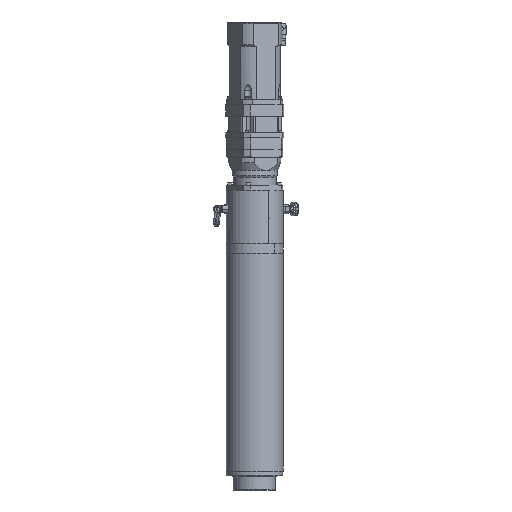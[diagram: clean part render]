
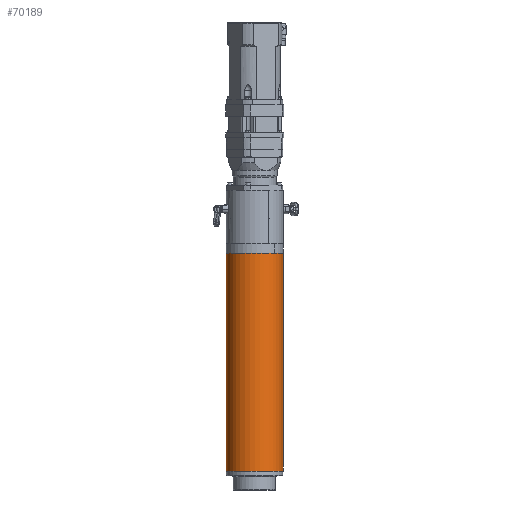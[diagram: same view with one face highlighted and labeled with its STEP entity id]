
A CAD part, front view. The second image highlights one B-rep face of the part: STEP entity #70189.
In plain terms, the highlighted cylindrical face has radius 120 mm (diameter 240 mm), a partial arc.
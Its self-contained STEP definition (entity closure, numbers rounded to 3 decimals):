
#5825 = CARTESIAN_POINT ( 'NONE',  ( -120., 0., -172.5 ) ) ;
#6128 = ORIENTED_EDGE ( 'NONE', *, *, #28770, .T. ) ;
#9587 = CARTESIAN_POINT ( 'NONE',  ( 0., 0., 764. ) ) ;
#11962 = VERTEX_POINT ( 'NONE', #33325 ) ;
#12359 = VERTEX_POINT ( 'NONE', #66318 ) ;
#12760 = CARTESIAN_POINT ( 'NONE',  ( 120., 0., -152.5 ) ) ;
#15948 = DIRECTION ( 'NONE',  ( 0., 0., -1. ) ) ;
#19339 = CARTESIAN_POINT ( 'NONE',  ( -120., 0., -152.5 ) ) ;
#24879 = VERTEX_POINT ( 'NONE', #19339 ) ;
#27232 = EDGE_LOOP ( 'NONE', ( #50973, #71360, #6128, #42494 ) ) ;
#28770 = EDGE_CURVE ( 'NONE', #12359, #24879, #51484, .T. ) ;
#28857 = DIRECTION ( 'NONE',  ( 0., 0., -1. ) ) ;
#28951 = EDGE_CURVE ( 'NONE', #11962, #12359, #33733, .T. ) ;
#32527 = DIRECTION ( 'NONE',  ( -1., 0., 0. ) ) ;
#33325 = CARTESIAN_POINT ( 'NONE',  ( 120., 0., 764. ) ) ;
#33733 = CIRCLE ( 'NONE', #43363, 120. ) ;
#36013 = CARTESIAN_POINT ( 'NONE',  ( 120., 0., -172.5 ) ) ;
#36045 = VECTOR ( 'NONE', #28857, 1000. ) ;
#36357 = VECTOR ( 'NONE', #59101, 1000. ) ;
#42494 = ORIENTED_EDGE ( 'NONE', *, *, #69232, .F. ) ;
#43363 = AXIS2_PLACEMENT_3D ( 'NONE', #9587, #45013, #43888 ) ;
#43888 = DIRECTION ( 'NONE',  ( -1., 0., 0. ) ) ;
#44665 = AXIS2_PLACEMENT_3D ( 'NONE', #67493, #56200, #67847 ) ;
#45013 = DIRECTION ( 'NONE',  ( 0., 0., -1. ) ) ;
#48072 = LINE ( 'NONE', #36013, #36357 ) ;
#50973 = ORIENTED_EDGE ( 'NONE', *, *, #55893, .F. ) ;
#51484 = LINE ( 'NONE', #5825, #36045 ) ;
#55195 = CARTESIAN_POINT ( 'NONE',  ( 0., 0., -152.5 ) ) ;
#55893 = EDGE_CURVE ( 'NONE', #11962, #72053, #48072, .T. ) ;
#56200 = DIRECTION ( 'NONE',  ( 0., 0., -1. ) ) ;
#59101 = DIRECTION ( 'NONE',  ( 0., 0., -1. ) ) ;
#59720 = FACE_OUTER_BOUND ( 'NONE', #27232, .T. ) ;
#61360 = CIRCLE ( 'NONE', #73307, 120. ) ;
#66318 = CARTESIAN_POINT ( 'NONE',  ( -120., 0., 764. ) ) ;
#67493 = CARTESIAN_POINT ( 'NONE',  ( 0., 0., -172.5 ) ) ;
#67847 = DIRECTION ( 'NONE',  ( -1., 0., 0. ) ) ;
#69232 = EDGE_CURVE ( 'NONE', #72053, #24879, #61360, .T. ) ;
#70189 = ADVANCED_FACE ( 'NONE', ( #59720 ), #72758, .T. ) ;
#71360 = ORIENTED_EDGE ( 'NONE', *, *, #28951, .T. ) ;
#72053 = VERTEX_POINT ( 'NONE', #12760 ) ;
#72758 = CYLINDRICAL_SURFACE ( 'NONE', #44665, 120. ) ;
#73307 = AXIS2_PLACEMENT_3D ( 'NONE', #55195, #15948, #32527 ) ;
